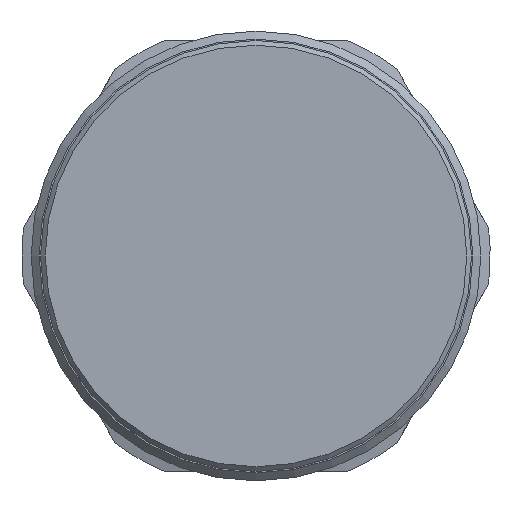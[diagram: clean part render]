
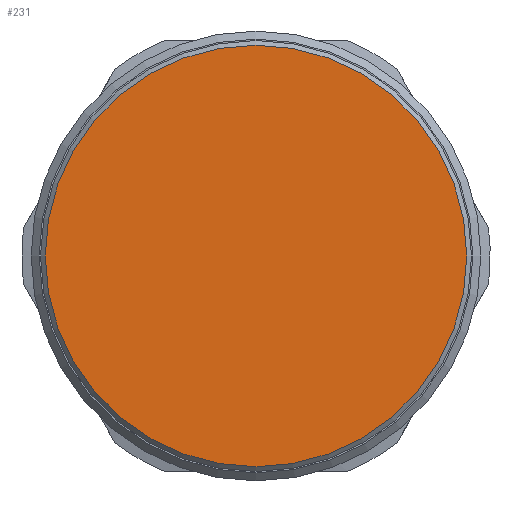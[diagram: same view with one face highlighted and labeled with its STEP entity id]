
A CAD part, front view. The second image highlights one B-rep face of the part: STEP entity #231.
In plain terms, the highlighted planar face has unit normal (0, -1, 0).
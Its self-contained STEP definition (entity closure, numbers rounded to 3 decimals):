
#147=PLANE('',#1068);
#231=ADVANCED_FACE('',(#299),#147,.F.);
#299=FACE_OUTER_BOUND('',#371,.T.);
#371=EDGE_LOOP('',(#576));
#447=CIRCLE('',#1067,22.5);
#576=ORIENTED_EDGE('',*,*,#896,.T.);
#800=VERTEX_POINT('',#1578);
#896=EDGE_CURVE('',#800,#800,#447,.T.);
#1067=AXIS2_PLACEMENT_3D('',#1577,#1253,#1254);
#1068=AXIS2_PLACEMENT_3D('',#1579,#1255,#1256);
#1253=DIRECTION('',(0.,-1.,0.));
#1254=DIRECTION('',(0.,0.,1.));
#1255=DIRECTION('',(0.,1.,0.));
#1256=DIRECTION('',(0.,0.,1.));
#1577=CARTESIAN_POINT('',(0.,-50.5,0.));
#1578=CARTESIAN_POINT('',(0.,-50.5,22.5));
#1579=CARTESIAN_POINT('',(0.,-50.5,0.));
